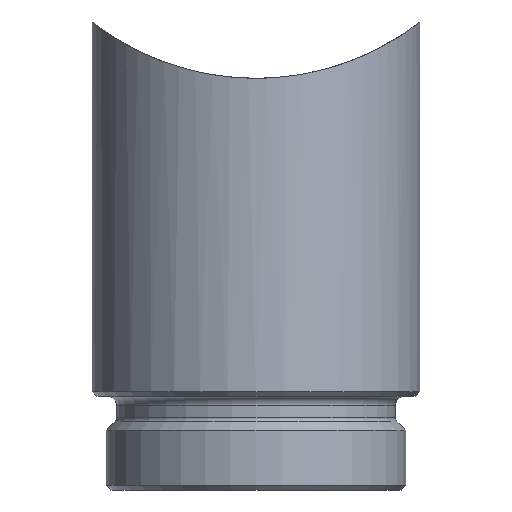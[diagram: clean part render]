
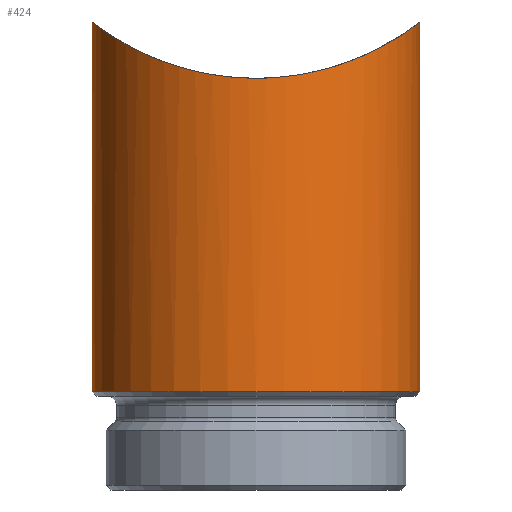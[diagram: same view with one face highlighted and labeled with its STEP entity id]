
A CAD part, front view. The second image highlights one B-rep face of the part: STEP entity #424.
In plain terms, the highlighted cylindrical face has radius 17.5 mm (diameter 35 mm), a partial arc.
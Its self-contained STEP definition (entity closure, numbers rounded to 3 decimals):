
#12 = CARTESIAN_POINT ( 'NONE',  ( -6.299, -16.33, 44.698 ) ) ;
#32 = CARTESIAN_POINT ( 'NONE',  ( 14.203, -10.239, 47.783 ) ) ;
#51 = CARTESIAN_POINT ( 'NONE',  ( -17.5, 0., 50. ) ) ;
#61 = LINE ( 'NONE', #610, #748 ) ;
#65 = CARTESIAN_POINT ( 'NONE',  ( -16.347, -6.272, 49.147 ) ) ;
#68 = EDGE_CURVE ( 'NONE', #507, #700, #61, .T. ) ;
#69 = CARTESIAN_POINT ( 'NONE',  ( -5.481, -16.622, 44.525 ) ) ;
#76 = CARTESIAN_POINT ( 'NONE',  ( -15.123, -8.824, 48.336 ) ) ;
#87 = CARTESIAN_POINT ( 'NONE',  ( 1.155, -17.502, 43.993 ) ) ;
#121 = EDGE_CURVE ( 'NONE', #700, #515, #449, .T. ) ;
#130 = CARTESIAN_POINT ( 'NONE',  ( -16.544, -5.734, 49.287 ) ) ;
#131 = CARTESIAN_POINT ( 'NONE',  ( 17.5, 0., 50. ) ) ;
#134 = CARTESIAN_POINT ( 'NONE',  ( -7.898, -15.659, 45.089 ) ) ;
#138 = CARTESIAN_POINT ( 'NONE',  ( -1.215, -17.46, 44.019 ) ) ;
#143 = CARTESIAN_POINT ( 'NONE',  ( -14.829, -9.309, 48.154 ) ) ;
#148 = CARTESIAN_POINT ( 'NONE',  ( 12.78, -11.968, 47.017 ) ) ;
#160 = CARTESIAN_POINT ( 'NONE',  ( 16.339, -6.293, 49.142 ) ) ;
#164 = CARTESIAN_POINT ( 'NONE',  ( -0.624, -17.491, 44. ) ) ;
#173 = VERTEX_POINT ( 'NONE', #297 ) ;
#194 = CARTESIAN_POINT ( 'NONE',  ( -15.661, -7.829, 48.681 ) ) ;
#197 = DIRECTION ( 'NONE',  ( 0., 0., 1. ) ) ;
#199 = CARTESIAN_POINT ( 'NONE',  ( -10.277, -14.175, 45.907 ) ) ;
#201 = CARTESIAN_POINT ( 'NONE',  ( 17.5, 0., 10. ) ) ;
#212 = DIRECTION ( 'NONE',  ( 0., 0., 1. ) ) ;
#214 = CARTESIAN_POINT ( 'NONE',  ( 0., 0., 10. ) ) ;
#215 = CARTESIAN_POINT ( 'NONE',  ( 17.26, -2.948, 49.815 ) ) ;
#218 = CARTESIAN_POINT ( 'NONE',  ( 16.539, -5.748, 49.283 ) ) ;
#225 = CARTESIAN_POINT ( 'NONE',  ( 2.32, -17.385, 44.066 ) ) ;
#228 = CARTESIAN_POINT ( 'NONE',  ( 17.5, 0., 50. ) ) ;
#232 = CARTESIAN_POINT ( 'NONE',  ( 4.04, -17.037, 44.276 ) ) ;
#264 = CARTESIAN_POINT ( 'NONE',  ( -17.5, 0., 50. ) ) ;
#272 = CARTESIAN_POINT ( 'NONE',  ( -2.958, -17.258, 44.143 ) ) ;
#276 = CARTESIAN_POINT ( 'NONE',  ( -17.381, -2.35, 49.906 ) ) ;
#277 = CARTESIAN_POINT ( 'NONE',  ( 0., 0., 10.5 ) ) ;
#281 = CARTESIAN_POINT ( 'NONE',  ( -5.755, -16.529, 44.58 ) ) ;
#288 = CARTESIAN_POINT ( 'NONE',  ( -0.325, -17.499, 43.995 ) ) ;
#290 = ORIENTED_EDGE ( 'NONE', *, *, #121, .F. ) ;
#292 = CARTESIAN_POINT ( 'NONE',  ( 17.026, -4.086, 49.639 ) ) ;
#297 = CARTESIAN_POINT ( 'NONE',  ( 17.5, 0., 10.5 ) ) ;
#298 = ORIENTED_EDGE ( 'NONE', *, *, #485, .T. ) ;
#300 = CARTESIAN_POINT ( 'NONE',  ( 16.882, -4.646, 49.531 ) ) ;
#343 = CARTESIAN_POINT ( 'NONE',  ( -4.652, -16.88, 44.371 ) ) ;
#351 = CARTESIAN_POINT ( 'NONE',  ( -10.725, -13.84, 46.085 ) ) ;
#355 = CARTESIAN_POINT ( 'NONE',  ( 5.726, -16.547, 44.57 ) ) ;
#357 = CARTESIAN_POINT ( 'NONE',  ( 6.268, -16.349, 44.687 ) ) ;
#363 = CARTESIAN_POINT ( 'NONE',  ( 13.158, -11.551, 47.21 ) ) ;
#364 = VECTOR ( 'NONE', #197, 1000. ) ;
#403 = DIRECTION ( 'NONE',  ( 0., 0., 1. ) ) ;
#405 = CARTESIAN_POINT ( 'NONE',  ( -16.886, -4.63, 49.535 ) ) ;
#410 = CARTESIAN_POINT ( 'NONE',  ( -6.57, -16.222, 44.761 ) ) ;
#415 = AXIS2_PLACEMENT_3D ( 'NONE', #214, #547, #417 ) ;
#417 = DIRECTION ( 'NONE',  ( 1., 0., 0. ) ) ;
#418 = CARTESIAN_POINT ( 'NONE',  ( -11.588, -13.126, 46.452 ) ) ;
#424 = ADVANCED_FACE ( 'NONE', ( #489 ), #811, .T. ) ;
#449 = B_SPLINE_CURVE_WITH_KNOTS ( 'NONE', 3,
 ( #264, #620, #276, #541, #405, #130, #65, #808, #194, #76, #143, #478, #743, #813, #418, #351, #199, #624, #134, #410, #12, #281, #69, #343, #615, #272, #487, #746, #138, #164, #288, #87, #225, #232, #574, #355, #357, #569, #695, #633, #832, #641, #828, #148, #363, #643, #32, #775, #562, #160, #218, #300, #292, #215, #506, #838, #846, #228 ),
 .UNSPECIFIED., .F., .F.,
 ( 4, 2, 2, 2, 2, 2, 2, 2, 2, 2, 2, 2, 2, 2, 2, 2, 2, 2, 2, 2, 2, 2, 2, 2, 2, 2, 2, 2, 4 ),
 ( 0.056, 0.06, 0.061, 0.063, 0.065, 0.067, 0.07, 0.072, 0.074, 0.077, 0.078, 0.079, 0.081, 0.082, 0.083, 0.084, 0.088, 0.089, 0.091, 0.093, 0.095, 0.098, 0.1, 0.102, 0.105, 0.107, 0.109, 0.111, 0.112 ),
 .UNSPECIFIED. ) ;
#478 = CARTESIAN_POINT ( 'NONE',  ( -13.892, -10.701, 47.599 ) ) ;
#485 = EDGE_CURVE ( 'NONE', #173, #515, #559, .T. ) ;
#487 = CARTESIAN_POINT ( 'NONE',  ( -2.383, -17.347, 44.088 ) ) ;
#489 = FACE_OUTER_BOUND ( 'NONE', #767, .T. ) ;
#506 = CARTESIAN_POINT ( 'NONE',  ( 17.349, -2.37, 49.883 ) ) ;
#507 = VERTEX_POINT ( 'NONE', #741 ) ;
#509 = EDGE_CURVE ( 'NONE', #507, #173, #566, .T. ) ;
#515 = VERTEX_POINT ( 'NONE', #131 ) ;
#527 = AXIS2_PLACEMENT_3D ( 'NONE', #277, #403, #556 ) ;
#541 = CARTESIAN_POINT ( 'NONE',  ( -17.032, -4.062, 49.643 ) ) ;
#547 = DIRECTION ( 'NONE',  ( 0., 0., 1. ) ) ;
#556 = DIRECTION ( 'NONE',  ( 1., 0., 0. ) ) ;
#559 = LINE ( 'NONE', #201, #364 ) ;
#562 = CARTESIAN_POINT ( 'NONE',  ( 15.672, -7.871, 48.684 ) ) ;
#566 = CIRCLE ( 'NONE', #527, 17.5 ) ;
#569 = CARTESIAN_POINT ( 'NONE',  ( 7.325, -15.903, 44.947 ) ) ;
#574 = CARTESIAN_POINT ( 'NONE',  ( 4.612, -16.892, 44.364 ) ) ;
#610 = CARTESIAN_POINT ( 'NONE',  ( -17.5, 0., 10. ) ) ;
#615 = CARTESIAN_POINT ( 'NONE',  ( -4.093, -17.025, 44.284 ) ) ;
#620 = CARTESIAN_POINT ( 'NONE',  ( -17.5, -1.187, 50. ) ) ;
#624 = CARTESIAN_POINT ( 'NONE',  ( -8.888, -15.117, 45.398 ) ) ;
#633 = CARTESIAN_POINT ( 'NONE',  ( 8.842, -15.113, 45.396 ) ) ;
#641 = CARTESIAN_POINT ( 'NONE',  ( 10.738, -13.864, 46.076 ) ) ;
#643 = CARTESIAN_POINT ( 'NONE',  ( 13.87, -10.686, 47.594 ) ) ;
#647 = ORIENTED_EDGE ( 'NONE', *, *, #68, .F. ) ;
#695 = CARTESIAN_POINT ( 'NONE',  ( 7.84, -15.656, 45.089 ) ) ;
#700 = VERTEX_POINT ( 'NONE', #51 ) ;
#741 = CARTESIAN_POINT ( 'NONE',  ( -17.5, 0., 10.5 ) ) ;
#743 = CARTESIAN_POINT ( 'NONE',  ( -13.187, -11.558, 47.214 ) ) ;
#746 = CARTESIAN_POINT ( 'NONE',  ( -1.509, -17.437, 44.033 ) ) ;
#748 = VECTOR ( 'NONE', #212, 1000. ) ;
#767 = EDGE_LOOP ( 'NONE', ( #647, #866, #298, #290 ) ) ;
#775 = CARTESIAN_POINT ( 'NONE',  ( 15.136, -8.853, 48.335 ) ) ;
#808 = CARTESIAN_POINT ( 'NONE',  ( -15.906, -7.319, 48.845 ) ) ;
#811 = CYLINDRICAL_SURFACE ( 'NONE', #415, 17.5 ) ;
#813 = CARTESIAN_POINT ( 'NONE',  ( -12.005, -12.745, 46.643 ) ) ;
#828 = CARTESIAN_POINT ( 'NONE',  ( 11.598, -13.153, 46.446 ) ) ;
#832 = CARTESIAN_POINT ( 'NONE',  ( 9.332, -14.815, 45.561 ) ) ;
#838 = CARTESIAN_POINT ( 'NONE',  ( 17.469, -1.193, 49.976 ) ) ;
#846 = CARTESIAN_POINT ( 'NONE',  ( 17.5, -0.594, 50. ) ) ;
#866 = ORIENTED_EDGE ( 'NONE', *, *, #509, .T. ) ;
